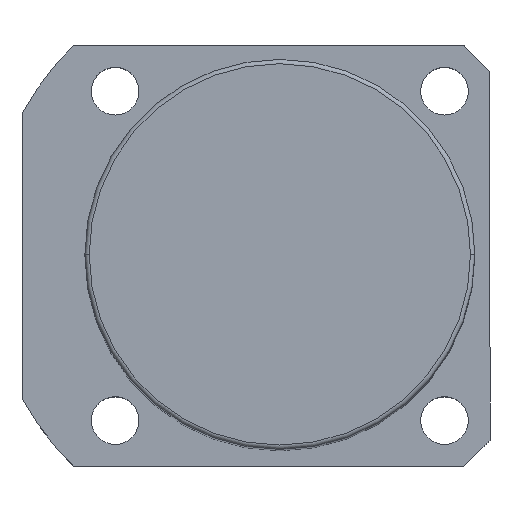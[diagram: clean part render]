
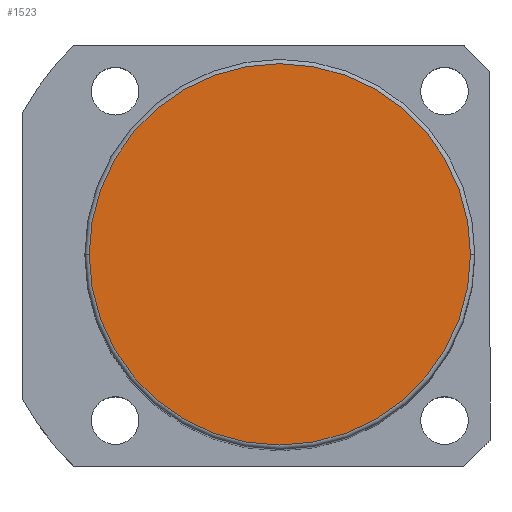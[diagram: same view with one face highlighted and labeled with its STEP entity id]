
A CAD part, top view. The second image highlights one B-rep face of the part: STEP entity #1523.
In plain terms, the highlighted planar face has unit normal (0, 0, 1).
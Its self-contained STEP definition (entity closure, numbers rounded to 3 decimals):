
#286 = ORIENTED_EDGE ( 'NONE', *, *, #1197, .T. ) ;
#345 = EDGE_CURVE ( 'NONE', #628, #2222, #2099, .T. ) ;
#396 = CARTESIAN_POINT ( 'NONE',  ( -44., 0., 211.5 ) ) ;
#493 = DIRECTION ( 'NONE',  ( 0., 0., 1. ) ) ;
#628 = VERTEX_POINT ( 'NONE', #1449 ) ;
#630 = AXIS2_PLACEMENT_3D ( 'NONE', #1680, #493, #2017 ) ;
#676 = FACE_OUTER_BOUND ( 'NONE', #1482, .T. ) ;
#781 = CARTESIAN_POINT ( 'NONE',  ( 0., 0., 211.5 ) ) ;
#815 = DIRECTION ( 'NONE',  ( 1., 0., 0. ) ) ;
#1197 = EDGE_CURVE ( 'NONE', #2222, #628, #1309, .T. ) ;
#1309 = CIRCLE ( 'NONE', #1904, 44. ) ;
#1449 = CARTESIAN_POINT ( 'NONE',  ( 44., 0., 211.5 ) ) ;
#1482 = EDGE_LOOP ( 'NONE', ( #1870, #286 ) ) ;
#1523 = ADVANCED_FACE ( 'NONE', ( #676 ), #1860, .T. ) ;
#1570 = AXIS2_PLACEMENT_3D ( 'NONE', #1723, #1912, #1740 ) ;
#1680 = CARTESIAN_POINT ( 'NONE',  ( 0., 0., 211.5 ) ) ;
#1723 = CARTESIAN_POINT ( 'NONE',  ( 0., 0., 211.5 ) ) ;
#1740 = DIRECTION ( 'NONE',  ( 1., 0., 0. ) ) ;
#1860 = PLANE ( 'NONE',  #630 ) ;
#1870 = ORIENTED_EDGE ( 'NONE', *, *, #345, .T. ) ;
#1904 = AXIS2_PLACEMENT_3D ( 'NONE', #781, #2006, #815 ) ;
#1912 = DIRECTION ( 'NONE',  ( 0., 0., 1. ) ) ;
#2006 = DIRECTION ( 'NONE',  ( 0., 0., 1. ) ) ;
#2017 = DIRECTION ( 'NONE',  ( 1., 0., 0. ) ) ;
#2099 = CIRCLE ( 'NONE', #1570, 44. ) ;
#2222 = VERTEX_POINT ( 'NONE', #396 ) ;
